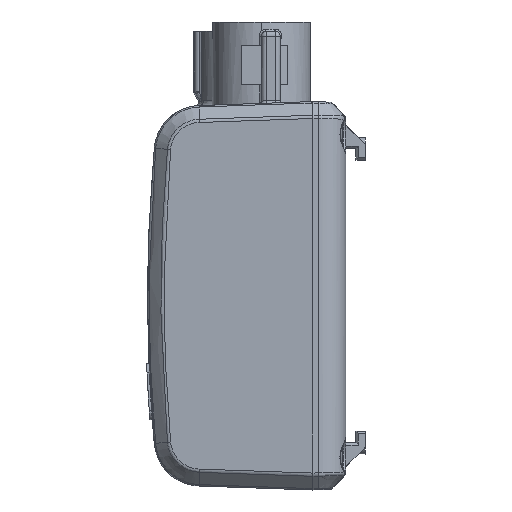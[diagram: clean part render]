
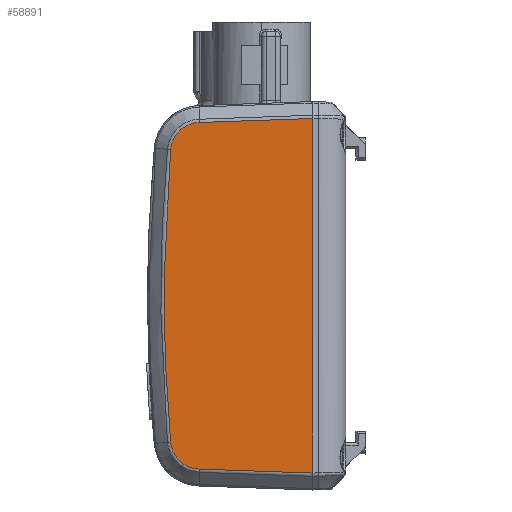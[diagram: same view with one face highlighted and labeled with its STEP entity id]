
A CAD part, left-side view. The second image highlights one B-rep face of the part: STEP entity #58891.
In plain terms, the highlighted planar face has unit normal (-0.999, 0.035, 0).
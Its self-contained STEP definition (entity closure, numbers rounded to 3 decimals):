
#163 = B_SPLINE_CURVE_WITH_KNOTS ( 'NONE', 3,
 ( #22228, #22278, #22267, #22208, #22211, #22273 ),
 .UNSPECIFIED., .F., .F.,
 ( 4, 2, 4 ),
 ( 0., 0.031, 0.062 ),
 .UNSPECIFIED. ) ;
#165 = B_SPLINE_CURVE_WITH_KNOTS ( 'NONE', 3,
 ( #22236, #22232, #22264, #22269, #22240, #22206, #22214, #22225, #22241, #22215, #22226, #22271, #22229, #22275, #22254, #22256, #22253, #22219, #22216, #22217 ),
 .UNSPECIFIED., .F., .F.,
 ( 4, 2, 2, 2, 2, 2, 2, 2, 2, 4 ),
 ( 0., 0.001, 0.002, 0.003, 0.005, 0.005, 0.006, 0.007, 0.008, 0.009 ),
 .UNSPECIFIED. ) ;
#195 = B_SPLINE_CURVE_WITH_KNOTS ( 'NONE', 3,
 ( #22319, #22351, #22365, #22358, #22352, #22415, #22387, #22405, #22354, #22418, #22390, #22400, #22384, #22355, #22377, #22417, #22381, #22356, #22364, #22393 ),
 .UNSPECIFIED., .F., .F.,
 ( 4, 2, 2, 2, 2, 2, 2, 2, 2, 4 ),
 ( 0., 0.001, 0.002, 0.003, 0.005, 0.005, 0.006, 0.007, 0.008, 0.009 ),
 .UNSPECIFIED. ) ;
#897 = EDGE_LOOP ( 'NONE', ( #3381, #3389, #3370, #3359, #3346, #3356, #3338, #3366 ) ) ;
#3338 = ORIENTED_EDGE ( 'NONE', *, *, #63377, .T. ) ;
#3346 = ORIENTED_EDGE ( 'NONE', *, *, #63389, .T. ) ;
#3356 = ORIENTED_EDGE ( 'NONE', *, *, #63442, .T. ) ;
#3359 = ORIENTED_EDGE ( 'NONE', *, *, #63380, .T. ) ;
#3366 = ORIENTED_EDGE ( 'NONE', *, *, #63521, .T. ) ;
#3370 = ORIENTED_EDGE ( 'NONE', *, *, #63551, .T. ) ;
#3381 = ORIENTED_EDGE ( 'NONE', *, *, #63399, .T. ) ;
#3389 = ORIENTED_EDGE ( 'NONE', *, *, #63519, .T. ) ;
#22105 = VERTEX_POINT ( 'NONE', #63263 ) ;
#22131 = VERTEX_POINT ( 'NONE', #63256 ) ;
#22149 = VERTEX_POINT ( 'NONE', #63266 ) ;
#22152 = VERTEX_POINT ( 'NONE', #63270 ) ;
#22157 = VERTEX_POINT ( 'NONE', #63273 ) ;
#22162 = VERTEX_POINT ( 'NONE', #63274 ) ;
#22174 = CARTESIAN_POINT ( 'NONE',  ( -27.481, 10.537, -79.381 ) ) ;
#22205 = VERTEX_POINT ( 'NONE', #63251 ) ;
#22206 = CARTESIAN_POINT ( 'NONE',  ( -26.542, 37.427, -5.106 ) ) ;
#22207 = VERTEX_POINT ( 'NONE', #63250 ) ;
#22208 = CARTESIAN_POINT ( 'NONE',  ( -26.369, 42.38, -51.91 ) ) ;
#22211 = CARTESIAN_POINT ( 'NONE',  ( -26.385, 41.913, -62.322 ) ) ;
#22214 = CARTESIAN_POINT ( 'NONE',  ( -26.53, 37.772, -5.288 ) ) ;
#22215 = CARTESIAN_POINT ( 'NONE',  ( -26.482, 39.136, -6.336 ) ) ;
#22216 = CARTESIAN_POINT ( 'NONE',  ( -26.419, 40.937, -9.878 ) ) ;
#22217 = CARTESIAN_POINT ( 'NONE',  ( -26.418, 40.97, -10.265 ) ) ;
#22219 = CARTESIAN_POINT ( 'NONE',  ( -26.422, 40.866, -9.501 ) ) ;
#22225 = CARTESIAN_POINT ( 'NONE',  ( -26.507, 38.415, -5.704 ) ) ;
#22226 = CARTESIAN_POINT ( 'NONE',  ( -26.477, 39.271, -6.476 ) ) ;
#22228 = CARTESIAN_POINT ( 'NONE',  ( -26.418, 40.97, -10.265 ) ) ;
#22229 = CARTESIAN_POINT ( 'NONE',  ( -26.464, 39.646, -6.915 ) ) ;
#22232 = CARTESIAN_POINT ( 'NONE',  ( -26.619, 35.218, -4.479 ) ) ;
#22236 = CARTESIAN_POINT ( 'NONE',  ( -26.632, 34.83, -4.467 ) ) ;
#22240 = CARTESIAN_POINT ( 'NONE',  ( -26.567, 36.712, -4.807 ) ) ;
#22241 = CARTESIAN_POINT ( 'NONE',  ( -26.497, 38.716, -5.939 ) ) ;
#22253 = CARTESIAN_POINT ( 'NONE',  ( -26.429, 40.659, -8.764 ) ) ;
#22254 = CARTESIAN_POINT ( 'NONE',  ( -26.446, 40.183, -7.707 ) ) ;
#22256 = CARTESIAN_POINT ( 'NONE',  ( -26.434, 40.522, -8.402 ) ) ;
#22264 = CARTESIAN_POINT ( 'NONE',  ( -26.606, 35.598, -4.527 ) ) ;
#22267 = CARTESIAN_POINT ( 'NONE',  ( -26.369, 42.38, -31.088 ) ) ;
#22269 = CARTESIAN_POINT ( 'NONE',  ( -26.58, 36.345, -4.691 ) ) ;
#22271 = CARTESIAN_POINT ( 'NONE',  ( -26.468, 39.526, -6.765 ) ) ;
#22273 = CARTESIAN_POINT ( 'NONE',  ( -26.418, 40.971, -72.733 ) ) ;
#22275 = CARTESIAN_POINT ( 'NONE',  ( -26.452, 39.985, -7.379 ) ) ;
#22278 = CARTESIAN_POINT ( 'NONE',  ( -26.385, 41.912, -20.676 ) ) ;
#22279 = DIRECTION ( 'NONE',  ( -0.035, -0.999, -0.035 ) ) ;
#22319 = CARTESIAN_POINT ( 'NONE',  ( -26.418, 40.971, -72.733 ) ) ;
#22329 = CARTESIAN_POINT ( 'NONE',  ( -27.48, 10.552, 0. ) ) ;
#22342 = DIRECTION ( 'NONE',  ( 0., 0., 1. ) ) ;
#22351 = CARTESIAN_POINT ( 'NONE',  ( -26.419, 40.937, -73.12 ) ) ;
#22352 = CARTESIAN_POINT ( 'NONE',  ( -26.434, 40.523, -74.594 ) ) ;
#22354 = CARTESIAN_POINT ( 'NONE',  ( -26.477, 39.278, -76.53 ) ) ;
#22355 = CARTESIAN_POINT ( 'NONE',  ( -26.53, 37.769, -77.714 ) ) ;
#22356 = CARTESIAN_POINT ( 'NONE',  ( -26.606, 35.601, -78.472 ) ) ;
#22358 = CARTESIAN_POINT ( 'NONE',  ( -26.429, 40.66, -74.233 ) ) ;
#22364 = CARTESIAN_POINT ( 'NONE',  ( -26.619, 35.221, -78.521 ) ) ;
#22365 = CARTESIAN_POINT ( 'NONE',  ( -26.422, 40.867, -73.497 ) ) ;
#22377 = CARTESIAN_POINT ( 'NONE',  ( -26.542, 37.43, -77.893 ) ) ;
#22381 = CARTESIAN_POINT ( 'NONE',  ( -26.579, 36.348, -78.308 ) ) ;
#22384 = CARTESIAN_POINT ( 'NONE',  ( -26.513, 38.251, -77.402 ) ) ;
#22387 = CARTESIAN_POINT ( 'NONE',  ( -26.453, 39.983, -75.624 ) ) ;
#22390 = CARTESIAN_POINT ( 'NONE',  ( -26.497, 38.711, -77.053 ) ) ;
#22393 = CARTESIAN_POINT ( 'NONE',  ( -26.632, 34.833, -78.533 ) ) ;
#22400 = CARTESIAN_POINT ( 'NONE',  ( -26.508, 38.407, -77.291 ) ) ;
#22405 = CARTESIAN_POINT ( 'NONE',  ( -26.468, 39.531, -76.242 ) ) ;
#22415 = CARTESIAN_POINT ( 'NONE',  ( -26.445, 40.184, -75.291 ) ) ;
#22417 = CARTESIAN_POINT ( 'NONE',  ( -26.567, 36.717, -78.191 ) ) ;
#22418 = CARTESIAN_POINT ( 'NONE',  ( -26.492, 38.859, -76.926 ) ) ;
#22577 = CARTESIAN_POINT ( 'NONE',  ( -27.48, 10.552, -79.379 ) ) ;
#22579 = CARTESIAN_POINT ( 'NONE',  ( -27.48, 10.552, -3.62 ) ) ;
#22582 = CARTESIAN_POINT ( 'NONE',  ( -27.48, 10.552, -3.621 ) ) ;
#22586 = CARTESIAN_POINT ( 'NONE',  ( -27.48, 10.552, -3.62 ) ) ;
#22595 = CARTESIAN_POINT ( 'NONE',  ( -27.48, 10.552, -79.377 ) ) ;
#22597 = CARTESIAN_POINT ( 'NONE',  ( -27.48, 10.552, -3.623 ) ) ;
#22598 = CARTESIAN_POINT ( 'NONE',  ( -27.48, 10.552, -79.38 ) ) ;
#22608 = CARTESIAN_POINT ( 'NONE',  ( -27.48, 10.552, -79.38 ) ) ;
#25698 = VECTOR ( 'NONE', #22342, 1000. ) ;
#25762 = LINE ( 'NONE', #22174, #25765 ) ;
#25765 = VECTOR ( 'NONE', #22279, 1000. ) ;
#25767 = LINE ( 'NONE', #22329, #25698 ) ;
#25833 = LINE ( 'NONE', #26952, #25841 ) ;
#25841 = VECTOR ( 'NONE', #26938, 1000. ) ;
#26938 = DIRECTION ( 'NONE',  ( 0.035, 0.999, -0.035 ) ) ;
#26952 = CARTESIAN_POINT ( 'NONE',  ( -26.632, 34.83, -4.467 ) ) ;
#50412 =( BOUNDED_CURVE ( )  B_SPLINE_CURVE ( 3, ( #22608, #22577, #22595, #22598 ),
 .UNSPECIFIED., .F., .T. ) 
 B_SPLINE_CURVE_WITH_KNOTS ( ( 4, 4 ),
 ( 3.144, 3.149 ),
 .UNSPECIFIED. ) 
 CURVE ( )  GEOMETRIC_REPRESENTATION_ITEM ( )  RATIONAL_B_SPLINE_CURVE ( ( 1., 1., 1., 1. ) ) 
 REPRESENTATION_ITEM ( '' )  );
#50430 =( BOUNDED_CURVE ( )  B_SPLINE_CURVE ( 3, ( #22579, #22597, #22582, #22586 ),
 .UNSPECIFIED., .F., .T. ) 
 B_SPLINE_CURVE_WITH_KNOTS ( ( 4, 4 ),
 ( 6.276, 6.281 ),
 .UNSPECIFIED. ) 
 CURVE ( )  GEOMETRIC_REPRESENTATION_ITEM ( )  RATIONAL_B_SPLINE_CURVE ( ( 1., 1., 1., 1. ) ) 
 REPRESENTATION_ITEM ( '' )  );
#58891 = ADVANCED_FACE ( 'NONE', ( #61964 ), #69047, .T. ) ;
#61964 = FACE_OUTER_BOUND ( 'NONE', #897, .T. ) ;
#63250 = CARTESIAN_POINT ( 'NONE',  ( -27.48, 10.552, -79.38 ) ) ;
#63251 = CARTESIAN_POINT ( 'NONE',  ( -26.632, 34.83, -4.467 ) ) ;
#63256 = CARTESIAN_POINT ( 'NONE',  ( -27.48, 10.552, -3.62 ) ) ;
#63263 = CARTESIAN_POINT ( 'NONE',  ( -27.48, 10.552, -79.38 ) ) ;
#63266 = CARTESIAN_POINT ( 'NONE',  ( -26.418, 40.97, -10.265 ) ) ;
#63270 = CARTESIAN_POINT ( 'NONE',  ( -26.632, 34.833, -78.533 ) ) ;
#63273 = CARTESIAN_POINT ( 'NONE',  ( -26.418, 40.971, -72.733 ) ) ;
#63274 = CARTESIAN_POINT ( 'NONE',  ( -27.48, 10.552, -3.62 ) ) ;
#63377 = EDGE_CURVE ( 'NONE', #22152, #22207, #25762, .T. ) ;
#63380 = EDGE_CURVE ( 'NONE', #22205, #22149, #165, .T. ) ;
#63389 = EDGE_CURVE ( 'NONE', #22149, #22157, #163, .T. ) ;
#63399 = EDGE_CURVE ( 'NONE', #22105, #22131, #25767, .T. ) ;
#63442 = EDGE_CURVE ( 'NONE', #22157, #22152, #195, .T. ) ;
#63519 = EDGE_CURVE ( 'NONE', #22131, #22162, #50430, .T. ) ;
#63521 = EDGE_CURVE ( 'NONE', #22207, #22105, #50412, .T. ) ;
#63551 = EDGE_CURVE ( 'NONE', #22162, #22205, #25833, .T. ) ;
#64928 = AXIS2_PLACEMENT_3D ( 'NONE', #69088, #69017, #69090 ) ;
#69017 = DIRECTION ( 'NONE',  ( -0.999, 0.035, 0. ) ) ;
#69047 = PLANE ( 'NONE',  #64928 ) ;
#69088 = CARTESIAN_POINT ( 'NONE',  ( -27.48, 10.552, 0. ) ) ;
#69090 = DIRECTION ( 'NONE',  ( -0.035, -0.999, 0. ) ) ;
